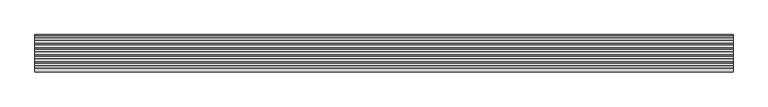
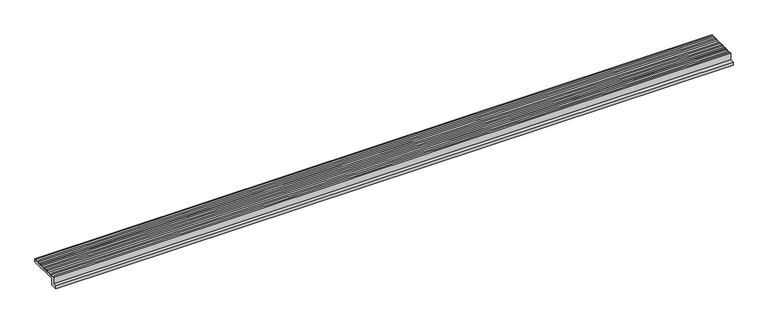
"""IFC4 building model written with IfcOpenShell, lengths in millimetres: proxy geometry, Muestra 2.5m 035 Anti-Slip : Muestra 2.5m 035 Anti-Slip."""

import ifcopenshell
import ifcopenshell.guid

model = None  # the IFC model being written
_history = None  # IfcOwnerHistory: only IFC2X3 demands one
_inside = {}  # id of a spatial element -> (the spatial element, [elements in it])
_under = {}  # id of a project, library or spatial element -> (it, [spatial elements below it])
_declared = {}  # id of a project -> (the project, [libraries it declares])
_typed = {}  # id of a type object -> (the type object, [elements of that type])
_made_of = {}  # id of a material, layer set ... -> (it, [elements and type objects made of it])


def new_model(schema):
    """Start an empty IFC model of exactly this schema.

    Asked for "IFC4X3", IfcOpenShell would pick the latest addendum, in which some entities
    have other attributes; the version numbers below select the first issue.
    IFC2X3 requires an IfcOwnerHistory on every rooted entity: one is made here for all.
    """
    global model, _history
    if schema == "IFC4X3":
        model = ifcopenshell.file(schema_version=(4, 3, 0, 0))
    else:
        model = ifcopenshell.file(schema=schema)
    _inside.clear()
    _under.clear()
    _declared.clear()
    _typed.clear()
    _made_of.clear()
    _history = None
    if model.schema == "IFC2X3":
        org = make("IfcOrganization", Name="unknown")
        user = make(
            "IfcPersonAndOrganization",
            ThePerson=make("IfcPerson", FamilyName="unknown"),
            TheOrganization=org,
        )
        app = make(
            "IfcApplication",
            ApplicationDeveloper=org,
            Version="unknown",
            ApplicationFullName="unknown",
            ApplicationIdentifier="unknown",
        )
        _history = make(
            "IfcOwnerHistory",
            OwningUser=user,
            OwningApplication=app,
            ChangeAction="ADDED",
            CreationDate=0,
        )
    return model


def make(cls, **values):
    """One entity of the class cls with the attributes given. An attribute that is None is left unset."""
    return model.create_entity(
        cls, **{name: value for name, value in values.items() if value is not None}
    )


def rooted(cls, **values):
    """An entity with a GlobalId (a new one), such as an element, a storey or a relation."""
    return make(cls, GlobalId=ifcopenshell.guid.new(), OwnerHistory=_history, **values)


def si_unit(unit_type, name, prefix=None):
    """IfcSIUnit, for example si_unit("LENGTHUNIT", "METRE", prefix="MILLI")."""
    return make("IfcSIUnit", UnitType=unit_type, Prefix=prefix, Name=name)


def assignment(units):
    """IfcUnitAssignment: the units of a project."""
    return None if units is None else make("IfcUnitAssignment", Units=units)


def point(xyz):
    """IfcCartesianPoint."""
    return None if xyz is None else make("IfcCartesianPoint", Coordinates=xyz)


def direction(xyz):
    """IfcDirection."""
    return None if xyz is None else make("IfcDirection", DirectionRatios=xyz)


def frame(location, z_axis=None, x_axis=None):
    """IfcAxis2Placement3D, a coordinate frame: its origin and axes. An axis left out is left unset."""
    return make(
        "IfcAxis2Placement3D",
        Location=point(location),
        Axis=direction(z_axis),
        RefDirection=direction(x_axis),
    )


def frame_2d(location, x_axis=None):
    """IfcAxis2Placement2D, a coordinate frame in the plane: its origin and x axis."""
    return make(
        "IfcAxis2Placement2D", Location=point(location), RefDirection=direction(x_axis)
    )


def origin():
    """The frame at (0, 0, 0) with its axes left unset."""
    return frame((0.0, 0.0, 0.0))


def place(relative_to, where):
    """IfcLocalPlacement: puts the frame where relative to a parent placement (None: the world)."""
    return make(
        "IfcLocalPlacement", PlacementRelTo=relative_to, RelativePlacement=where
    )


def context(
    kind, dimensions, precision=None, world=None, true_north=None, identifier=None
):
    """IfcGeometricRepresentationContext, for example the 3D "Model" context."""
    return make(
        "IfcGeometricRepresentationContext",
        ContextIdentifier=identifier,
        ContextType=kind,
        CoordinateSpaceDimension=dimensions,
        Precision=precision,
        WorldCoordinateSystem=world,
        TrueNorth=true_north,
    )


def project(units=None, contexts=None):
    """IfcProject with its units and contexts."""
    return rooted(
        "IfcProject",
        Name="project",
        RepresentationContexts=contexts,
        UnitsInContext=assignment(units),
    )


def spatial(cls, under=None, at=None, **own):
    """A site, building, storey or space (cls), placed at a placement, below another one or the project."""
    s = rooted(cls, ObjectPlacement=at, **own)
    if under is not None:
        _under.setdefault(under.id(), (under, []))[1].append(s)
    return s


def polyline(points):
    """IfcPolyline through the points."""
    return make("IfcPolyline", Points=[point(p) for p in points])


def circle_curve(where, radius):
    """IfcCircle in the frame where."""
    return make("IfcCircle", Position=where, Radius=radius)


def trimmed(basis, trim1, trim2, sense, master):
    """IfcTrimmedCurve: the piece of a basis curve between two trims."""
    return make(
        "IfcTrimmedCurve",
        BasisCurve=basis,
        Trim1=trim1,
        Trim2=trim2,
        SenseAgreement=sense,
        MasterRepresentation=master,
    )


def segment(curve, same_sense, transition):
    """IfcCompositeCurveSegment."""
    return make(
        "IfcCompositeCurveSegment",
        Transition=transition,
        SameSense=same_sense,
        ParentCurve=curve,
    )


def composite_curve(segments, self_intersect=None):
    """IfcCompositeCurve: segments joined end to end."""
    return make("IfcCompositeCurve", Segments=segments, SelfIntersect=self_intersect)


def outline(outer, holes=None, kind="AREA"):
    """IfcArbitraryClosedProfileDef: a profile drawn as a closed curve; with holes, ...WithVoids."""
    if holes is None:
        return make("IfcArbitraryClosedProfileDef", ProfileType=kind, OuterCurve=outer)
    return make(
        "IfcArbitraryProfileDefWithVoids",
        ProfileType=kind,
        OuterCurve=outer,
        InnerCurves=holes,
    )


def extrude(swept, where, along, depth):
    """IfcExtrudedAreaSolid: the profile swept, set in the frame where, extruded along a direction by depth."""
    return make(
        "IfcExtrudedAreaSolid",
        SweptArea=swept,
        Position=where,
        ExtrudedDirection=direction(along),
        Depth=depth,
    )


def shape(context_of_items, identifier, shape_type, items):
    """IfcShapeRepresentation: the items that make up one representation, for example the "Body"."""
    return make(
        "IfcShapeRepresentation",
        ContextOfItems=context_of_items,
        RepresentationIdentifier=identifier,
        RepresentationType=shape_type,
        Items=items,
    )


def source(mapping_origin, context_of_items, identifier, shape_type, items):
    """IfcRepresentationMap: a shape defined once, which mapped items show again and again."""
    return make(
        "IfcRepresentationMap",
        MappingOrigin=mapping_origin,
        MappedRepresentation=shape(context_of_items, identifier, shape_type, items),
    )


def transform(
    local_origin,
    x_axis=None,
    y_axis=None,
    z_axis=None,
    scale=None,
    scale2=None,
    scale3=None,
    uniform=True,
):
    """IfcCartesianTransformationOperator3D, or its non-uniform kind. x_axis, y_axis, z_axis: its Axis1, 2, 3."""
    if uniform:
        return make(
            "IfcCartesianTransformationOperator3D",
            Axis1=direction(x_axis),
            Axis2=direction(y_axis),
            LocalOrigin=point(local_origin),
            Scale=scale,
            Axis3=direction(z_axis),
        )
    return make(
        "IfcCartesianTransformationOperator3DnonUniform",
        Axis1=direction(x_axis),
        Axis2=direction(y_axis),
        LocalOrigin=point(local_origin),
        Scale=scale,
        Axis3=direction(z_axis),
        Scale2=scale2,
        Scale3=scale3,
    )


def mapped(mapping_source, mapping_target):
    """IfcMappedItem: shows the shape of a source again, moved by a transform."""
    return make(
        "IfcMappedItem", MappingSource=mapping_source, MappingTarget=mapping_target
    )


def made_of(thing, what):
    """Note that an element or type object is made of a material, layer set ...; save() writes the relation."""
    if what is not None:
        _made_of.setdefault(what.id(), (what, []))[1].append(thing)
    return thing


def element(
    cls,
    number,
    at=None,
    inside=None,
    cuts=None,
    type_object=None,
    material=None,
    context=None,
    identifier="Body",
    shape_type=None,
    held_by="IfcProductDefinitionShape",
    body=None,
    shapes=None,
    **own,
):
    """One element of the class cls, such as IfcWall. Its Tag is "e" and its number.

    at: its placement. inside: the storey or other place that contains it. cuts: it is an
    opening in that element (IfcRelVoidsElement). A single representation is given by context,
    identifier, shape_type and body (its items); several are given by shapes. held_by: the class
    of the entity that holds the representations. save() writes the other relations.
    """
    e = rooted(cls, Tag="e%d" % number, ObjectPlacement=at, **own)
    if body is not None:
        shapes = [shape(context, identifier, shape_type, body)]
    if shapes is not None:
        e.Representation = make(held_by, Representations=shapes)
    if inside is not None:
        _inside.setdefault(inside.id(), (inside, []))[1].append(e)
    if cuts is not None:
        rooted(
            "IfcRelVoidsElement", RelatingBuildingElement=cuts, RelatedOpeningElement=e
        )
    if type_object is not None:
        _typed.setdefault(type_object.id(), (type_object, []))[1].append(e)
    return made_of(e, material)


def aggregate(whole, parts):
    """IfcRelAggregates: a whole, such as a stair, and the parts it consists of."""
    return rooted("IfcRelAggregates", RelatingObject=whole, RelatedObjects=parts)


def save(model, path):
    """Write the relations noted so far, then the file.

    IfcRelAggregates (storeys below a building ...), IfcRelContainedInSpatialStructure (elements
    in a storey), IfcRelDefinesByType, IfcRelAssociatesMaterial and IfcRelDeclares: one each for
    every whole, place, type object, material and project.
    """
    for whole, parts in _under.values():
        aggregate(whole, parts)
    for where, things in _inside.values():
        rooted(
            "IfcRelContainedInSpatialStructure",
            RelatedElements=things,
            RelatingStructure=where,
        )
    for kind, things in _typed.values():
        rooted("IfcRelDefinesByType", RelatedObjects=things, RelatingType=kind)
    for what, things in _made_of.values():
        rooted("IfcRelAssociatesMaterial", RelatedObjects=things, RelatingMaterial=what)
    for by, libraries in _declared.values():
        rooted("IfcRelDeclares", RelatingContext=by, RelatedDefinitions=libraries)
    model.write(path)


def generic_models_fe17f52b(model_context):
    return source(origin(), model_context, "Body", "SweptSolid", [
        extrude(outline(composite_curve([segment(polyline([(-4975.118676, 20.0274907), (-4967.8673711, 20.0274907)]), True, "CONTINUOUS"), segment(trimmed(circle_curve(frame_2d((-4964.0589859, 24.4826985)), 5.8611155), [point((-4967.8673711, 20.0274907))], [point((-4959.9086968, 20.3441268))], True, "CARTESIAN"), True, "CONTINUOUS"), segment(trimmed(circle_curve(frame_2d((-4955.7557394, 24.4800208)), 5.8611155), [point((-4959.9086968, 20.3441268))], [point((-4951.6054503, 20.3414492))], True, "CARTESIAN"), True, "CONTINUOUS"), segment(trimmed(circle_curve(frame_2d((-4947.4524929, 24.4773432)), 5.8611155), [point((-4951.6054503, 20.3414492))], [point((-4943.3022039, 20.3387716))], True, "CARTESIAN"), True, "CONTINUOUS"), segment(trimmed(circle_curve(frame_2d((-4939.1492465, 24.4746656)), 5.8611155), [point((-4943.3022039, 20.3387716))], [point((-4934.9989574, 20.3360939))], True, "CARTESIAN"), True, "CONTINUOUS"), segment(trimmed(circle_curve(frame_2d((-4930.846, 24.4719879)), 5.8611155), [point((-4934.9989574, 20.3360939))], [point((-4926.695711, 20.3334163))], True, "CARTESIAN"), True, "CONTINUOUS"), segment(trimmed(circle_curve(frame_2d((-4922.5427536, 24.4693103)), 5.8611155), [point((-4926.695711, 20.3334163))], [point((-4918.3924645, 20.3307387))], True, "CARTESIAN"), True, "CONTINUOUS"), segment(trimmed(circle_curve(frame_2d((-4914.2395071, 24.4666327)), 5.8611155), [point((-4918.3924645, 20.3307387))], [point((-4910.089218, 20.328061))], True, "CARTESIAN"), True, "CONTINUOUS"), segment(trimmed(circle_curve(frame_2d((-4905.9362606, 24.463955)), 5.8611155), [point((-4910.089218, 20.328061))], [point((-4901.7859716, 20.3253834))], True, "CARTESIAN"), True, "CONTINUOUS"), segment(trimmed(circle_curve(frame_2d((-4897.6330142, 24.4612774)), 5.8611155), [point((-4901.7859716, 20.3253834))], [point((-4893.4827251, 20.3227058))], True, "CARTESIAN"), True, "CONTINUOUS"), segment(trimmed(circle_curve(frame_2d((-4889.3297677, 24.4585998)), 5.8611155), [point((-4893.4827251, 20.3227058))], [point((-4885.1794787, 20.3200281))], True, "CARTESIAN"), True, "CONTINUOUS"), segment(trimmed(circle_curve(frame_2d((-4881.0265213, 24.4559221)), 5.8611155), [point((-4885.1794787, 20.3200281))], [point((-4876.8762322, 20.3173505))], True, "CARTESIAN"), True, "CONTINUOUS"), segment(trimmed(circle_curve(frame_2d((-4872.7232748, 24.4532445)), 5.8611155), [point((-4876.8762322, 20.3173505))], [point((-4868.5729857, 20.3146729))], True, "CARTESIAN"), True, "CONTINUOUS"), segment(trimmed(circle_curve(frame_2d((-4864.4200283, 24.4505669)), 5.8611155), [point((-4868.5729857, 20.3146729))], [point((-4860.6147777, 19.9926815))], True, "CARTESIAN"), True, "CONTINUOUS"), segment(polyline([(-4860.6147777, 19.9926815), (-4856.118676, 19.9926815), (-4856.118676, 8.0274907), (-4963.118676, 8.0274907), (-4963.118676, -15.9725093), (-4990.118676, -15.9725093), (-4990.118676, -4.9725093), (-4975.118676, -4.9725093), (-4975.118676, 20.0274907)]), True, "CONTINUOUS")], self_intersect=False)), frame((143586.7309952, 0.0, 0.0), z_axis=(1.0, 0.0, 0.0), x_axis=(0.0, 1.0, 0.0)), (0.0, 0.0, 1.0), 2500.0),
    ])


if __name__ == "__main__":
    model = new_model("IFC4")
    model_context = context("Model", 3, world=origin())
    ifc_project = project(units=[si_unit("LENGTHUNIT", "METRE", prefix="MILLI")], contexts=[model_context])
    site = spatial("IfcSite", under=ifc_project)
    building = spatial("IfcBuilding", under=site)
    placement = place(None, origin())
    generic_models_shape = generic_models_fe17f52b(model_context)
    element("IfcBuildingElementProxy", 1, Name="Muestra 2.5m 035 Anti-Slip : Muestra 2.5m 035 Anti-Slip", ObjectType="Muestra 2.5m 035 Anti-Slip : Muestra 2.5m 035 Anti-Slip", at=placement, inside=building, context=model_context, shape_type="MappedRepresentation", body=[
        mapped(generic_models_shape, transform((0.0, 0.0, 0.0), x_axis=(1.0, 0.0, 0.0), y_axis=(0.0, 1.0, 0.0), z_axis=(0.0, 0.0, 1.0))),
    ])
    save(model, "model.ifc")
